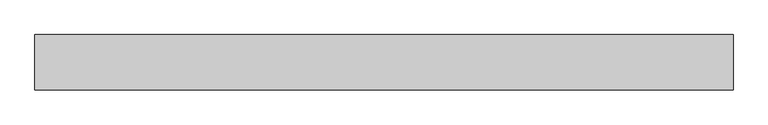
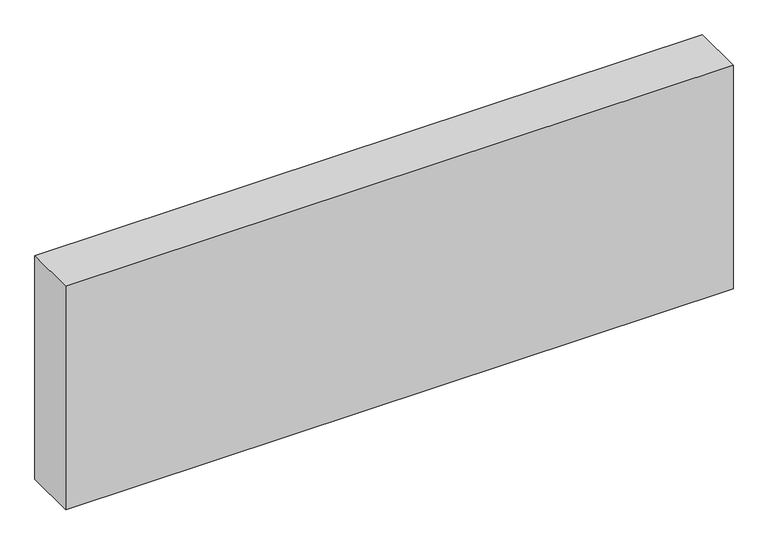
"""IFC4 building model written with IfcOpenShell, lengths in millimetres: proxy geometry."""

from ifc_helpers import new_model, si_unit, origin, origin_with_axes, place, context, project, spatial, polyline, outline, extrude, source, transform, mapped, element, save


def generic_models_ce63eb4e(model_context):
    return source(origin(), model_context, "Body", "SweptSolid", [
        extrude(outline(polyline([(9767.3704319, -352.4), (912.4295265, -352.4), (912.4295265, 352.4), (9767.3704319, 352.4), (9767.3704319, -352.4)])), origin_with_axes(), (0.0, 0.0, 1.0), 3130.0),
    ])


if __name__ == "__main__":
    model = new_model("IFC4")
    model_context = context("Model", 3, world=origin())
    ifc_project = project(units=[si_unit("LENGTHUNIT", "METRE", prefix="MILLI")], contexts=[model_context])
    site = spatial("IfcSite", under=ifc_project)
    building = spatial("IfcBuilding", under=site)
    placement = place(None, origin())
    generic_models_shape = generic_models_ce63eb4e(model_context)
    element("IfcBuildingElementProxy", 1, Name="Generic Models", at=placement, inside=building, context=model_context, shape_type="MappedRepresentation", body=[
        mapped(generic_models_shape, transform((0.0, 0.0, 0.0), x_axis=(1.0, 0.0, 0.0), y_axis=(0.0, 1.0, 0.0), z_axis=(0.0, 0.0, 1.0))),
    ])
    save(model, "model.ifc")
